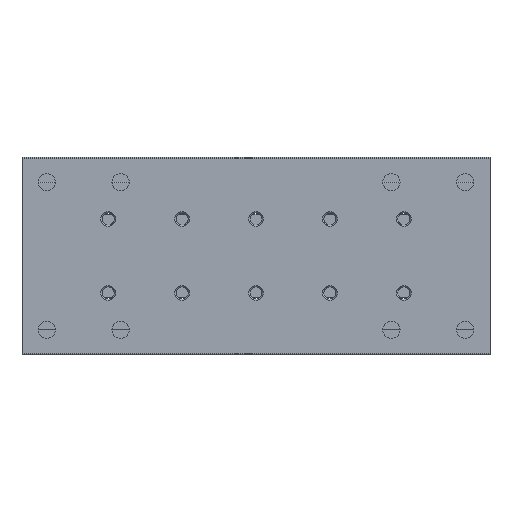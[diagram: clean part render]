
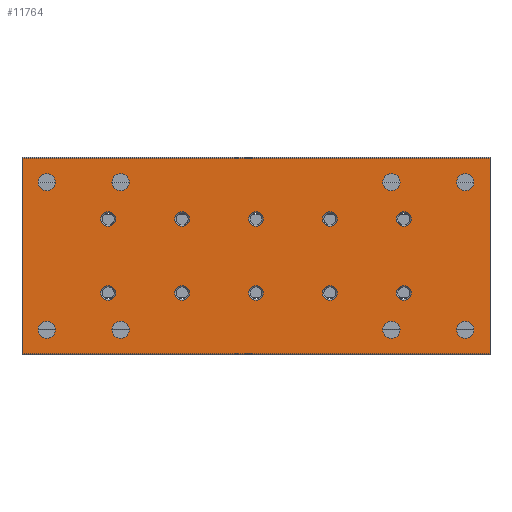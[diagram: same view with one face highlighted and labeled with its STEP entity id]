
A CAD part, front view. The second image highlights one B-rep face of the part: STEP entity #11764.
In plain terms, the highlighted planar face has unit normal (0, -1, 0).
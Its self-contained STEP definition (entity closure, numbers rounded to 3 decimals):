
#414=CIRCLE('',#12482,1.5);
#415=CIRCLE('',#12483,1.5);
#416=CIRCLE('',#12484,1.5);
#417=CIRCLE('',#12485,1.5);
#418=CIRCLE('',#12486,1.5);
#419=CIRCLE('',#12487,1.5);
#420=CIRCLE('',#12488,1.5);
#421=CIRCLE('',#12489,1.5);
#422=CIRCLE('',#12490,1.5);
#423=CIRCLE('',#12491,1.5);
#424=CIRCLE('',#12492,1.75);
#425=CIRCLE('',#12493,1.75);
#426=CIRCLE('',#12494,1.75);
#427=CIRCLE('',#12495,1.75);
#428=CIRCLE('',#12496,1.75);
#429=CIRCLE('',#12497,1.75);
#430=CIRCLE('',#12498,1.75);
#431=CIRCLE('',#12499,1.75);
#1235=LINE('',#18040,#2269);
#1257=LINE('',#18084,#2291);
#1259=LINE('',#18124,#2293);
#1260=LINE('',#18126,#2294);
#2269=VECTOR('',#14038,1000.);
#2291=VECTOR('',#14066,1000.);
#2293=VECTOR('',#14106,1000.);
#2294=VECTOR('',#14107,1000.);
#3392=ORIENTED_EDGE('',*,*,#6923,.F.);
#3393=ORIENTED_EDGE('',*,*,#6924,.F.);
#3394=ORIENTED_EDGE('',*,*,#6925,.F.);
#3395=ORIENTED_EDGE('',*,*,#6926,.F.);
#3396=ORIENTED_EDGE('',*,*,#6927,.F.);
#3397=ORIENTED_EDGE('',*,*,#6928,.F.);
#3398=ORIENTED_EDGE('',*,*,#6929,.F.);
#3399=ORIENTED_EDGE('',*,*,#6930,.F.);
#3400=ORIENTED_EDGE('',*,*,#6931,.F.);
#3401=ORIENTED_EDGE('',*,*,#6932,.F.);
#3402=ORIENTED_EDGE('',*,*,#6933,.F.);
#3403=ORIENTED_EDGE('',*,*,#6934,.F.);
#3404=ORIENTED_EDGE('',*,*,#6935,.F.);
#3405=ORIENTED_EDGE('',*,*,#6936,.F.);
#3406=ORIENTED_EDGE('',*,*,#6937,.T.);
#3407=ORIENTED_EDGE('',*,*,#6938,.F.);
#3408=ORIENTED_EDGE('',*,*,#6939,.F.);
#3409=ORIENTED_EDGE('',*,*,#6940,.F.);
#3410=ORIENTED_EDGE('',*,*,#6899,.T.);
#3411=ORIENTED_EDGE('',*,*,#6941,.F.);
#3412=ORIENTED_EDGE('',*,*,#6942,.F.);
#3413=ORIENTED_EDGE('',*,*,#6921,.T.);
#6899=EDGE_CURVE('',#8657,#8656,#1235,.T.);
#6921=EDGE_CURVE('',#8676,#8657,#1257,.T.);
#6923=EDGE_CURVE('',#8677,#8677,#414,.T.);
#6924=EDGE_CURVE('',#8678,#8678,#415,.T.);
#6925=EDGE_CURVE('',#8679,#8679,#416,.T.);
#6926=EDGE_CURVE('',#8680,#8680,#417,.T.);
#6927=EDGE_CURVE('',#8681,#8681,#418,.T.);
#6928=EDGE_CURVE('',#8682,#8682,#419,.T.);
#6929=EDGE_CURVE('',#8683,#8683,#420,.T.);
#6930=EDGE_CURVE('',#8684,#8684,#421,.T.);
#6931=EDGE_CURVE('',#8685,#8685,#422,.T.);
#6932=EDGE_CURVE('',#8686,#8686,#423,.T.);
#6933=EDGE_CURVE('',#8687,#8687,#424,.T.);
#6934=EDGE_CURVE('',#8688,#8688,#425,.T.);
#6935=EDGE_CURVE('',#8689,#8689,#426,.T.);
#6936=EDGE_CURVE('',#8690,#8690,#427,.T.);
#6937=EDGE_CURVE('',#8691,#8691,#428,.T.);
#6938=EDGE_CURVE('',#8692,#8692,#429,.T.);
#6939=EDGE_CURVE('',#8693,#8693,#430,.T.);
#6940=EDGE_CURVE('',#8694,#8694,#431,.T.);
#6941=EDGE_CURVE('',#8695,#8656,#1259,.T.);
#6942=EDGE_CURVE('',#8676,#8695,#1260,.T.);
#8656=VERTEX_POINT('',#18039);
#8657=VERTEX_POINT('',#18041);
#8676=VERTEX_POINT('',#18085);
#8677=VERTEX_POINT('',#18089);
#8678=VERTEX_POINT('',#18091);
#8679=VERTEX_POINT('',#18093);
#8680=VERTEX_POINT('',#18095);
#8681=VERTEX_POINT('',#18097);
#8682=VERTEX_POINT('',#18099);
#8683=VERTEX_POINT('',#18101);
#8684=VERTEX_POINT('',#18103);
#8685=VERTEX_POINT('',#18105);
#8686=VERTEX_POINT('',#18107);
#8687=VERTEX_POINT('',#18109);
#8688=VERTEX_POINT('',#18111);
#8689=VERTEX_POINT('',#18113);
#8690=VERTEX_POINT('',#18115);
#8691=VERTEX_POINT('',#18117);
#8692=VERTEX_POINT('',#18119);
#8693=VERTEX_POINT('',#18121);
#8694=VERTEX_POINT('',#18123);
#8695=VERTEX_POINT('',#18125);
#9793=EDGE_LOOP('',(#3392));
#9794=EDGE_LOOP('',(#3393));
#9795=EDGE_LOOP('',(#3394));
#9796=EDGE_LOOP('',(#3395));
#9797=EDGE_LOOP('',(#3396));
#9798=EDGE_LOOP('',(#3397));
#9799=EDGE_LOOP('',(#3398));
#9800=EDGE_LOOP('',(#3399));
#9801=EDGE_LOOP('',(#3400));
#9802=EDGE_LOOP('',(#3401));
#9803=EDGE_LOOP('',(#3402));
#9804=EDGE_LOOP('',(#3403));
#9805=EDGE_LOOP('',(#3404));
#9806=EDGE_LOOP('',(#3405));
#9807=EDGE_LOOP('',(#3406));
#9808=EDGE_LOOP('',(#3407));
#9809=EDGE_LOOP('',(#3408));
#9810=EDGE_LOOP('',(#3409));
#9811=EDGE_LOOP('',(#3410,#3411,#3412,#3413));
#10625=FACE_BOUND('',#9793,.T.);
#10626=FACE_BOUND('',#9794,.T.);
#10627=FACE_BOUND('',#9795,.T.);
#10628=FACE_BOUND('',#9796,.T.);
#10629=FACE_BOUND('',#9797,.T.);
#10630=FACE_BOUND('',#9798,.T.);
#10631=FACE_BOUND('',#9799,.T.);
#10632=FACE_BOUND('',#9800,.T.);
#10633=FACE_BOUND('',#9801,.T.);
#10634=FACE_BOUND('',#9802,.T.);
#10635=FACE_BOUND('',#9803,.T.);
#10636=FACE_BOUND('',#9804,.T.);
#10637=FACE_BOUND('',#9805,.T.);
#10638=FACE_BOUND('',#9806,.T.);
#10639=FACE_BOUND('',#9807,.T.);
#10640=FACE_BOUND('',#9808,.T.);
#10641=FACE_BOUND('',#9809,.T.);
#10642=FACE_BOUND('',#9810,.T.);
#10643=FACE_BOUND('',#9811,.T.);
#11457=PLANE('',#12481);
#11764=ADVANCED_FACE('',(#10625,#10626,#10627,#10628,#10629,#10630,#10631,
#10632,#10633,#10634,#10635,#10636,#10637,#10638,#10639,#10640,#10641,#10642,
#10643),#11457,.F.);
#12481=AXIS2_PLACEMENT_3D('',#18087,#14068,#14069);
#12482=AXIS2_PLACEMENT_3D('',#18088,#14070,#14071);
#12483=AXIS2_PLACEMENT_3D('',#18090,#14072,#14073);
#12484=AXIS2_PLACEMENT_3D('',#18092,#14074,#14075);
#12485=AXIS2_PLACEMENT_3D('',#18094,#14076,#14077);
#12486=AXIS2_PLACEMENT_3D('',#18096,#14078,#14079);
#12487=AXIS2_PLACEMENT_3D('',#18098,#14080,#14081);
#12488=AXIS2_PLACEMENT_3D('',#18100,#14082,#14083);
#12489=AXIS2_PLACEMENT_3D('',#18102,#14084,#14085);
#12490=AXIS2_PLACEMENT_3D('',#18104,#14086,#14087);
#12491=AXIS2_PLACEMENT_3D('',#18106,#14088,#14089);
#12492=AXIS2_PLACEMENT_3D('',#18108,#14090,#14091);
#12493=AXIS2_PLACEMENT_3D('',#18110,#14092,#14093);
#12494=AXIS2_PLACEMENT_3D('',#18112,#14094,#14095);
#12495=AXIS2_PLACEMENT_3D('',#18114,#14096,#14097);
#12496=AXIS2_PLACEMENT_3D('',#18116,#14098,#14099);
#12497=AXIS2_PLACEMENT_3D('',#18118,#14100,#14101);
#12498=AXIS2_PLACEMENT_3D('',#18120,#14102,#14103);
#12499=AXIS2_PLACEMENT_3D('',#18122,#14104,#14105);
#14038=DIRECTION('',(0.,0.,-1.));
#14066=DIRECTION('',(-1.,0.,0.));
#14068=DIRECTION('',(0.,1.,0.));
#14069=DIRECTION('',(0.,0.,1.));
#14070=DIRECTION('',(0.,-1.,0.));
#14071=DIRECTION('',(0.,0.,-1.));
#14072=DIRECTION('',(0.,-1.,0.));
#14073=DIRECTION('',(0.,0.,-1.));
#14074=DIRECTION('',(0.,-1.,0.));
#14075=DIRECTION('',(0.,0.,-1.));
#14076=DIRECTION('',(0.,-1.,0.));
#14077=DIRECTION('',(0.,0.,-1.));
#14078=DIRECTION('',(0.,-1.,0.));
#14079=DIRECTION('',(0.,0.,-1.));
#14080=DIRECTION('',(0.,-1.,0.));
#14081=DIRECTION('',(0.,0.,-1.));
#14082=DIRECTION('',(0.,-1.,0.));
#14083=DIRECTION('',(0.,0.,-1.));
#14084=DIRECTION('',(0.,-1.,0.));
#14085=DIRECTION('',(0.,0.,-1.));
#14086=DIRECTION('',(0.,-1.,0.));
#14087=DIRECTION('',(0.,0.,-1.));
#14088=DIRECTION('',(0.,-1.,0.));
#14089=DIRECTION('',(0.,0.,-1.));
#14090=DIRECTION('',(0.,-1.,0.));
#14091=DIRECTION('',(0.,0.,-1.));
#14092=DIRECTION('',(0.,-1.,0.));
#14093=DIRECTION('',(0.,0.,-1.));
#14094=DIRECTION('',(0.,-1.,0.));
#14095=DIRECTION('',(0.,0.,-1.));
#14096=DIRECTION('',(0.,-1.,0.));
#14097=DIRECTION('',(0.,0.,-1.));
#14098=DIRECTION('',(0.,1.,0.));
#14099=DIRECTION('',(0.,0.,1.));
#14100=DIRECTION('',(0.,-1.,0.));
#14101=DIRECTION('',(0.,0.,-1.));
#14102=DIRECTION('',(0.,-1.,0.));
#14103=DIRECTION('',(0.,0.,-1.));
#14104=DIRECTION('',(0.,-1.,0.));
#14105=DIRECTION('',(0.,0.,-1.));
#14106=DIRECTION('',(-1.,0.,0.));
#14107=DIRECTION('',(0.,0.,-1.));
#18039=CARTESIAN_POINT('',(0.,0.,-19.85));
#18040=CARTESIAN_POINT('',(0.,0.,19.85));
#18041=CARTESIAN_POINT('',(0.,0.,19.85));
#18084=CARTESIAN_POINT('',(95.,0.,19.85));
#18085=CARTESIAN_POINT('',(95.,0.,19.85));
#18087=CARTESIAN_POINT('',(95.,0.,19.85));
#18088=CARTESIAN_POINT('',(17.5,0.,-7.5));
#18089=CARTESIAN_POINT('',(17.5,0.,-9.));
#18090=CARTESIAN_POINT('',(17.5,0.,7.5));
#18091=CARTESIAN_POINT('',(17.5,0.,6.));
#18092=CARTESIAN_POINT('',(77.5,0.,-7.5));
#18093=CARTESIAN_POINT('',(77.5,0.,-9.));
#18094=CARTESIAN_POINT('',(77.5,0.,7.5));
#18095=CARTESIAN_POINT('',(77.5,0.,6.));
#18096=CARTESIAN_POINT('',(62.5,0.,-7.5));
#18097=CARTESIAN_POINT('',(62.5,0.,-9.));
#18098=CARTESIAN_POINT('',(62.5,0.,7.5));
#18099=CARTESIAN_POINT('',(62.5,0.,6.));
#18100=CARTESIAN_POINT('',(32.5,0.,-7.5));
#18101=CARTESIAN_POINT('',(32.5,0.,-9.));
#18102=CARTESIAN_POINT('',(32.5,0.,7.5));
#18103=CARTESIAN_POINT('',(32.5,0.,6.));
#18104=CARTESIAN_POINT('',(47.5,0.,-7.5));
#18105=CARTESIAN_POINT('',(47.5,0.,-9.));
#18106=CARTESIAN_POINT('',(47.5,0.,7.5));
#18107=CARTESIAN_POINT('',(47.5,0.,6.));
#18108=CARTESIAN_POINT('',(75.,0.,15.));
#18109=CARTESIAN_POINT('',(75.,0.,13.25));
#18110=CARTESIAN_POINT('',(75.,0.,-15.));
#18111=CARTESIAN_POINT('',(75.,0.,-16.75));
#18112=CARTESIAN_POINT('',(20.,0.,15.));
#18113=CARTESIAN_POINT('',(20.,0.,13.25));
#18114=CARTESIAN_POINT('',(20.,0.,-15.));
#18115=CARTESIAN_POINT('',(20.,0.,-16.75));
#18116=CARTESIAN_POINT('',(90.,0.,15.));
#18117=CARTESIAN_POINT('',(90.,0.,16.75));
#18118=CARTESIAN_POINT('',(90.,0.,-15.));
#18119=CARTESIAN_POINT('',(90.,0.,-16.75));
#18120=CARTESIAN_POINT('',(5.,0.,-15.));
#18121=CARTESIAN_POINT('',(5.,0.,-16.75));
#18122=CARTESIAN_POINT('',(5.,0.,15.));
#18123=CARTESIAN_POINT('',(5.,0.,13.25));
#18124=CARTESIAN_POINT('',(95.,0.,-19.85));
#18125=CARTESIAN_POINT('',(95.,0.,-19.85));
#18126=CARTESIAN_POINT('',(95.,0.,19.85));
